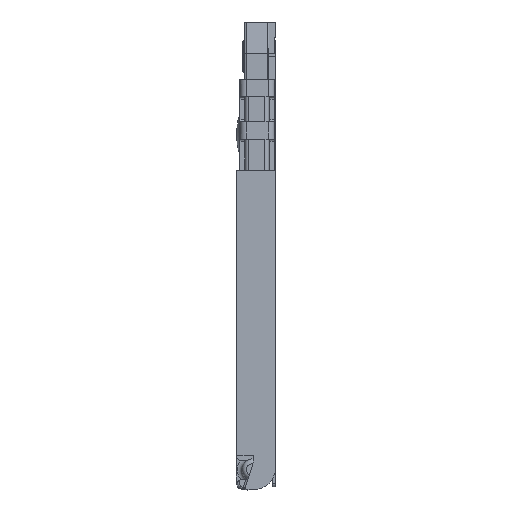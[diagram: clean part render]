
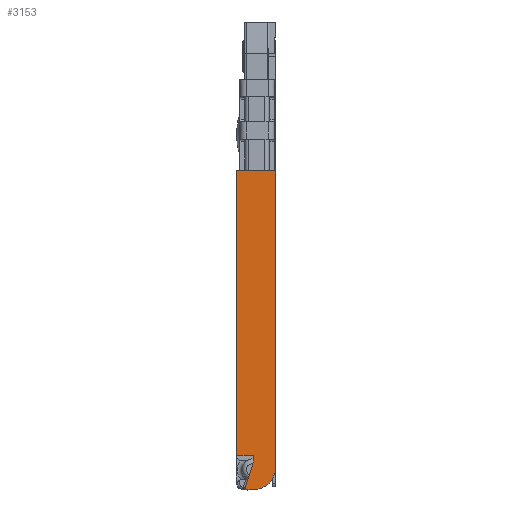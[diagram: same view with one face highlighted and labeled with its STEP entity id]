
A CAD part, left-side view. The second image highlights one B-rep face of the part: STEP entity #3153.
In plain terms, the highlighted planar face has unit normal (-1, 0, 0).
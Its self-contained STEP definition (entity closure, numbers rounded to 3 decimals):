
#3153=ADVANCED_FACE('',(#13236),#13238,.F.);
#13236=FACE_BOUND('',#13237,.T.);
#13237=EDGE_LOOP('',(#25254,#25255,#25256,#25257,#25258,#25259,#25260,#25261,#25262,
#25263));
#13238=PLANE('',#13239);
#13239=AXIS2_PLACEMENT_3D('',#13240,#13241,#13242);
#13240=CARTESIAN_POINT('',(-8.65,1.2,-2.29));
#13241=DIRECTION('',(1.,0.,0.));
#13242=DIRECTION('',(0.,0.,1.));
#25254=ORIENTED_EDGE('',*,*,#30777,.T.);
#25255=ORIENTED_EDGE('',*,*,#30778,.T.);
#25256=ORIENTED_EDGE('',*,*,#30158,.T.);
#25257=ORIENTED_EDGE('',*,*,#30779,.T.);
#25258=ORIENTED_EDGE('',*,*,#30228,.T.);
#25259=ORIENTED_EDGE('',*,*,#30776,.T.);
#25260=ORIENTED_EDGE('',*,*,#30780,.T.);
#25261=ORIENTED_EDGE('',*,*,#30781,.T.);
#25262=ORIENTED_EDGE('',*,*,#30782,.T.);
#25263=ORIENTED_EDGE('',*,*,#30783,.T.);
#30158=EDGE_CURVE('',#33893,#33891,#33894,.T.);
#30228=EDGE_CURVE('',#34020,#34018,#34021,.T.);
#30776=EDGE_CURVE('',#34018,#34955,#34957,.T.);
#30777=EDGE_CURVE('',#34958,#34959,#34960,.T.);
#30778=EDGE_CURVE('',#34959,#33893,#34961,.T.);
#30779=EDGE_CURVE('',#33891,#34020,#34962,.T.);
#30780=EDGE_CURVE('',#34955,#34963,#34964,.T.);
#30781=EDGE_CURVE('',#34963,#34965,#34966,.T.);
#30782=EDGE_CURVE('',#34965,#34967,#34968,.T.);
#30783=EDGE_CURVE('',#34967,#34958,#34969,.T.);
#33891=VERTEX_POINT('',#40876);
#33893=VERTEX_POINT('',#40880);
#33894=LINE('',#40881,#40882);
#34018=VERTEX_POINT('',#41168);
#34020=VERTEX_POINT('',#41172);
#34021=LINE('',#41173,#41174);
#34955=VERTEX_POINT('',#43423);
#34957=LINE('',#43427,#43428);
#34958=VERTEX_POINT('',#43430);
#34959=VERTEX_POINT('',#43431);
#34960=LINE('',#43432,#43433);
#34961=CIRCLE('',#43435,1.5);
#34962=LINE('',#43439,#43440);
#34963=VERTEX_POINT('',#43442);
#34964=LINE('',#43443,#43444);
#34965=VERTEX_POINT('',#43446);
#34966=CIRCLE('',#43447,1.);
#34967=VERTEX_POINT('',#43451);
#34968=LINE('',#43452,#43453);
#34969=CIRCLE('',#43455,0.15);
#40876=CARTESIAN_POINT('',(-8.65,-0.05,7.92));
#40880=CARTESIAN_POINT('',(-8.65,-0.05,-11.));
#40881=CARTESIAN_POINT('',(-8.65,-0.05,-11.));
#40882=VECTOR('',#40883,1.);
#40883=DIRECTION('',(0.,0.,1.));
#41168=CARTESIAN_POINT('',(-8.65,2.45,-10.3));
#41172=CARTESIAN_POINT('',(-8.65,2.45,7.92));
#41173=CARTESIAN_POINT('',(-8.65,2.45,7.92));
#41174=VECTOR('',#41175,1.);
#41175=DIRECTION('',(0.,0.,-1.));
#43423=CARTESIAN_POINT('',(-8.65,1.4,-10.3));
#43427=CARTESIAN_POINT('',(-8.65,2.45,-10.3));
#43428=VECTOR('',#43429,1.);
#43429=DIRECTION('',(0.,-1.,0.));
#43430=CARTESIAN_POINT('',(-8.65,1.744,-12.5));
#43431=CARTESIAN_POINT('',(-8.65,1.45,-12.5));
#43432=CARTESIAN_POINT('',(-8.65,1.744,-12.5));
#43433=VECTOR('',#43434,1.);
#43434=DIRECTION('',(0.,-1.,0.));
#43435=AXIS2_PLACEMENT_3D('',#43436,#43437,#43438);
#43436=CARTESIAN_POINT('',(-8.65,1.45,-11.));
#43437=DIRECTION('',(-1.,0.,0.));
#43438=DIRECTION('',(0.,0.,-1.));
#43439=CARTESIAN_POINT('',(-8.65,-0.05,7.92));
#43440=VECTOR('',#43441,1.);
#43441=DIRECTION('',(0.,1.,0.));
#43442=CARTESIAN_POINT('',(-8.65,1.4,-10.642));
#43443=CARTESIAN_POINT('',(-8.65,1.4,-10.3));
#43444=VECTOR('',#43445,1.);
#43445=DIRECTION('',(0.,0.,-1.));
#43446=CARTESIAN_POINT('',(-8.65,1.449,-10.95));
#43447=AXIS2_PLACEMENT_3D('',#43448,#43449,#43450);
#43448=CARTESIAN_POINT('',(-8.65,2.4,-10.642));
#43449=DIRECTION('',(1.,0.,0.));
#43450=DIRECTION('',(0.,-1.,0.));
#43451=CARTESIAN_POINT('',(-8.65,1.887,-12.304));
#43452=CARTESIAN_POINT('',(-8.65,1.449,-10.95));
#43453=VECTOR('',#43454,1.);
#43454=DIRECTION('',(0.,0.308,-0.951));
#43455=AXIS2_PLACEMENT_3D('',#43456,#43457,#43458);
#43456=CARTESIAN_POINT('',(-8.65,1.744,-12.35));
#43457=DIRECTION('',(-1.,0.,0.));
#43458=DIRECTION('',(0.,0.951,0.308));
